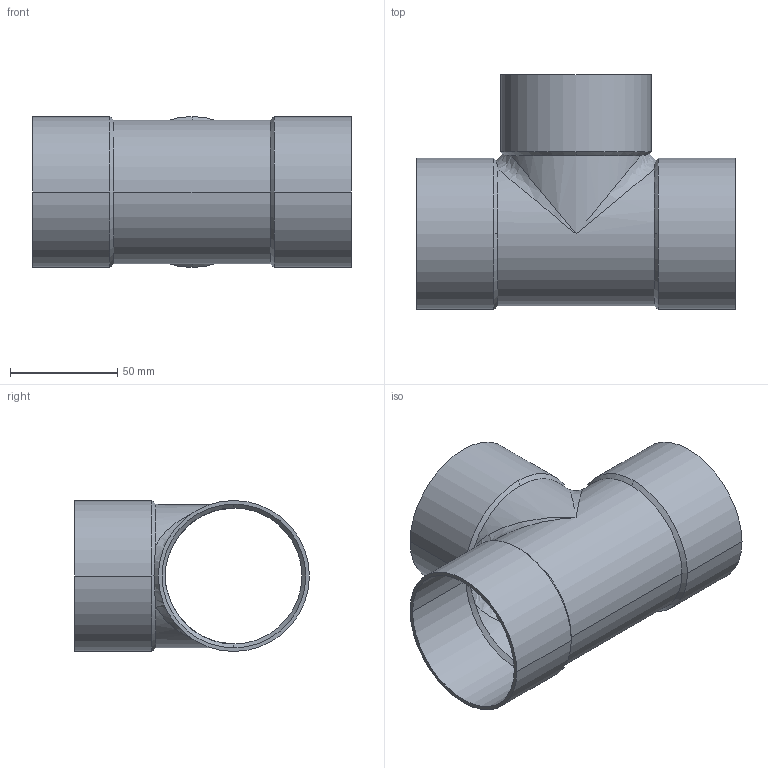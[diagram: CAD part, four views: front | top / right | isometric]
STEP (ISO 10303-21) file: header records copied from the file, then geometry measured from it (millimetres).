
FILE_DESCRIPTION((''),'2;1');
FILE_NAME('P:\Bouwmaten\z-maattekeningen 3D\5000\5130\d\513067.stp','2005-10-19T08:49:20',('Kris'),(''),'Autodesk Inventor 8','Autodesk Inventor 8','');
FILE_SCHEMA(('AUTOMOTIVE_DESIGN { 1 0 10303 214 1 1 1 1 }'));
Length unit declared in the file: millimetre
Products named in the file (1): 513067
Bounding box: 148.5 x 109.45 x 70.4 mm (x, y, z)
Volume: 65503.3 mm3; surface area: 78153.4 mm2
Topology: 1 solids, 1 shells, 39 faces, 118 edges, 72 vertices
Faces by surface type: cylinder 20, cone 12, bspline 4, plane 3
Entity records: 1867 total; most frequent: CARTESIAN_POINT 778, DIRECTION 250, ORIENTED_EDGE 220, AXIS2_PLACEMENT_3D 112, EDGE_CURVE 110, VERTEX_POINT 72, CIRCLE 60, EDGE_LOOP 42
